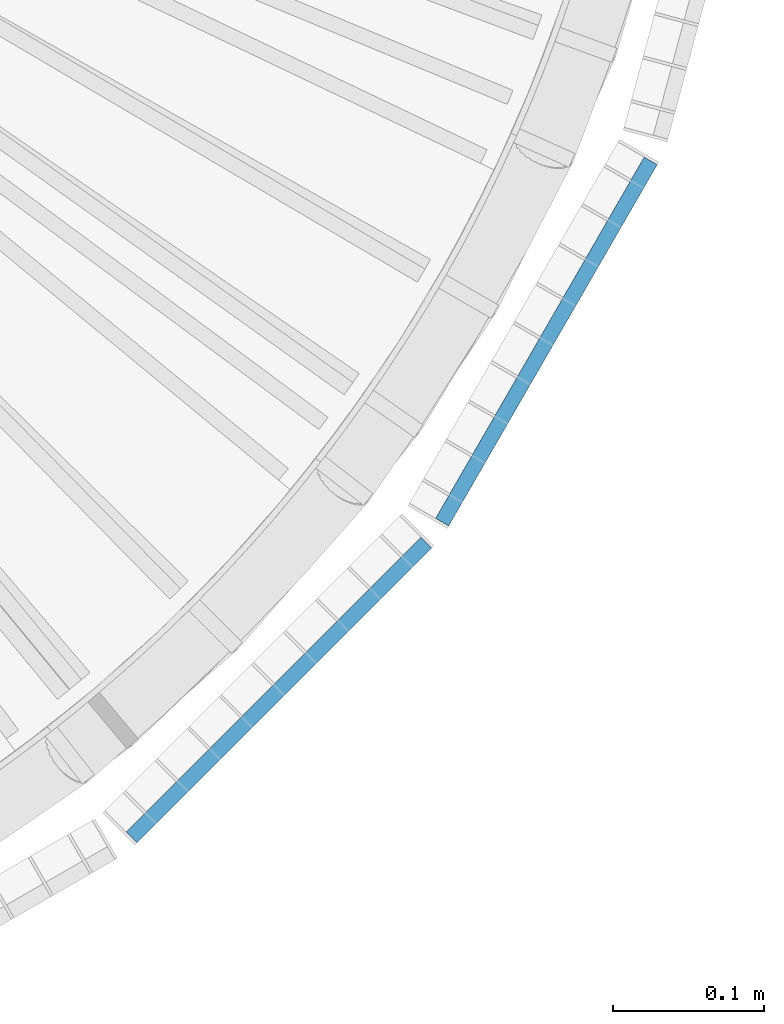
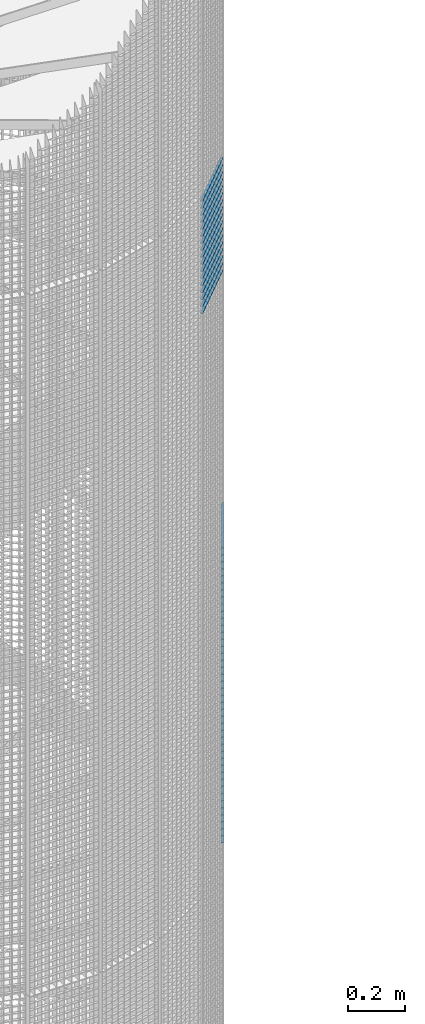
# One storey, part 249 of 1148: 60 beams, 2 elements without a shape of their own.
"""IFC2X3 building model written with IfcOpenShell, lengths in millimetres."""

from ifc_helpers import new_model, si_unit, frame, origin_with_axes, origin_2d_with_axis, place, context, subcontext, project, spatial, rectangle, extrude, material, type_object, element, aggregate, save


model = new_model("IFC2X3")

# Units and contexts
model_context = context("Model", 3, precision=1e-05, world=origin_with_axes())
body_context = subcontext(model_context, "Body", "Model", "MODEL_VIEW")
ifc_project = project(units=[si_unit("LENGTHUNIT", "METRE", prefix="MILLI"), si_unit("AREAUNIT", "SQUARE_METRE"), si_unit("VOLUMEUNIT", "CUBIC_METRE"), si_unit("MASSUNIT", "GRAM", prefix="KILO"), si_unit("TIMEUNIT", "SECOND"), si_unit("PLANEANGLEUNIT", "RADIAN"), si_unit("SOLIDANGLEUNIT", "STERADIAN"), si_unit("THERMODYNAMICTEMPERATUREUNIT", "DEGREE_CELSIUS"), si_unit("LUMINOUSINTENSITYUNIT", "LUMEN")], contexts=[model_context])

# Site, building, storey
site_placement = place(None, origin_with_axes())
site = spatial("IfcSite", under=ifc_project, at=site_placement, Name="Undefined", CompositionType="ELEMENT")
building_placement = place(site_placement, origin_with_axes())
building = spatial("IfcBuilding", under=site, at=building_placement, Name="Undefined", CompositionType="ELEMENT")
storey_placement = place(building_placement, origin_with_axes())
storey = spatial("IfcBuildingStorey", under=building, at=storey_placement, Name="Undefined", CompositionType="ELEMENT", Elevation=0.0)

# Assembly, beams
assembly_1_placement = place(storey_placement, origin_with_axes())
assembly_1 = element("IfcElementAssembly", 1, at=assembly_1_placement, inside=storey, Name="BORDURE", AssemblyPlace="NOTDEFINED", PredefinedType="NOTDEFINED")
ifc_material = material(Name="STEEL/S235JR")
beam_type = type_object("IfcBeamType", Name="PL2*10", PredefinedType="NOTDEFINED")
beam_1_placement = place(assembly_1_placement, frame((895.303964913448, -676.248044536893, 4290.0), z_axis=(0.866025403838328, -0.49999999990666, 0.0), x_axis=(0.49999999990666, 0.866025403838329, 0.0)))
beam_1 = element("IfcBeam", 2, at=beam_1_placement, type_object=beam_type, material=ifc_material, Name="ENTRETOISE", context=body_context, shape_type="SweptSolid", body=[
    extrude(rectangle(XDim=2.0, YDim=10.0, at=origin_2d_with_axis()), frame((275.999999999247, 9.09494701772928e-13, 1.53210777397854e-14), z_axis=(-1.0, 0.0, 0.0), x_axis=(0.0, -1.0, 0.0)), (0.0, 0.0, 1.0), 276.0),
])
beam_2_placement = place(assembly_1_placement, frame((895.303964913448, -676.248044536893, 4260.0), z_axis=(0.866025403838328, -0.49999999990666, 0.0), x_axis=(0.49999999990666, 0.866025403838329, 0.0)))
beam_2 = element("IfcBeam", 3, at=beam_2_placement, type_object=beam_type, material=ifc_material, Name="ENTRETOISE", context=body_context, shape_type="SweptSolid", body=[
    extrude(rectangle(XDim=2.0, YDim=10.0, at=origin_2d_with_axis()), frame((275.999999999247, 9.09494701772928e-13, 1.53210777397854e-14), z_axis=(-1.0, 0.0, 0.0), x_axis=(0.0, -1.0, 0.0)), (0.0, 0.0, 1.0), 276.0),
])
beam_3_placement = place(assembly_1_placement, frame((895.303964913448, -676.248044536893, 4230.0), z_axis=(0.866025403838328, -0.49999999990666, 0.0), x_axis=(0.49999999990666, 0.866025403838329, 0.0)))
beam_3 = element("IfcBeam", 4, at=beam_3_placement, type_object=beam_type, material=ifc_material, Name="ENTRETOISE", context=body_context, shape_type="SweptSolid", body=[
    extrude(rectangle(XDim=2.0, YDim=10.0, at=origin_2d_with_axis()), frame((275.999999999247, 9.09494701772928e-13, 1.53210777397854e-14), z_axis=(-1.0, 0.0, 0.0), x_axis=(0.0, -1.0, 0.0)), (0.0, 0.0, 1.0), 276.0),
])
beam_4_placement = place(assembly_1_placement, frame((895.303964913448, -676.248044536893, 4200.0), z_axis=(0.866025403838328, -0.49999999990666, 0.0), x_axis=(0.49999999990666, 0.866025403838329, 0.0)))
beam_4 = element("IfcBeam", 5, at=beam_4_placement, type_object=beam_type, material=ifc_material, Name="ENTRETOISE", context=body_context, shape_type="SweptSolid", body=[
    extrude(rectangle(XDim=2.0, YDim=10.0, at=origin_2d_with_axis()), frame((275.999999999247, 9.09494701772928e-13, 1.53210777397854e-14), z_axis=(-1.0, 0.0, 0.0), x_axis=(0.0, -1.0, 0.0)), (0.0, 0.0, 1.0), 276.0),
])
beam_5_placement = place(assembly_1_placement, frame((895.303964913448, -676.248044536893, 4170.0), z_axis=(0.866025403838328, -0.49999999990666, 0.0), x_axis=(0.49999999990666, 0.866025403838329, 0.0)))
beam_5 = element("IfcBeam", 6, at=beam_5_placement, type_object=beam_type, material=ifc_material, Name="ENTRETOISE", context=body_context, shape_type="SweptSolid", body=[
    extrude(rectangle(XDim=2.0, YDim=10.0, at=origin_2d_with_axis()), frame((275.999999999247, 9.09494701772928e-13, 1.53210777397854e-14), z_axis=(-1.0, 0.0, 0.0), x_axis=(0.0, -1.0, 0.0)), (0.0, 0.0, 1.0), 276.0),
])
beam_6_placement = place(assembly_1_placement, frame((895.303964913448, -676.248044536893, 4140.0), z_axis=(0.866025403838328, -0.49999999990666, 0.0), x_axis=(0.49999999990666, 0.866025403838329, 0.0)))
beam_6 = element("IfcBeam", 7, at=beam_6_placement, type_object=beam_type, material=ifc_material, Name="ENTRETOISE", context=body_context, shape_type="SweptSolid", body=[
    extrude(rectangle(XDim=2.0, YDim=10.0, at=origin_2d_with_axis()), frame((275.999999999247, 9.09494701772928e-13, 1.53210777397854e-14), z_axis=(-1.0, 0.0, 0.0), x_axis=(0.0, -1.0, 0.0)), (0.0, 0.0, 1.0), 276.0),
])
beam_7_placement = place(assembly_1_placement, frame((895.303964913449, -676.248044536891, 3720.0), z_axis=(0.866025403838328, -0.49999999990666, 0.0), x_axis=(0.49999999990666, 0.866025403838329, 0.0)))
beam_7 = element("IfcBeam", 8, at=beam_7_placement, type_object=beam_type, material=ifc_material, Name="ENTRETOISE", context=body_context, shape_type="SweptSolid", body=[
    extrude(rectangle(XDim=2.0, YDim=10.0, at=origin_2d_with_axis()), frame((275.999999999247, 9.09494701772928e-13, 1.53210777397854e-14), z_axis=(-1.0, 0.0, 0.0), x_axis=(0.0, -1.0, 0.0)), (0.0, 0.0, 1.0), 276.0),
])
beam_8_placement = place(assembly_1_placement, frame((895.303964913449, -676.248044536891, 3690.0), z_axis=(0.866025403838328, -0.49999999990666, 0.0), x_axis=(0.49999999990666, 0.866025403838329, 0.0)))
beam_8 = element("IfcBeam", 9, at=beam_8_placement, type_object=beam_type, material=ifc_material, Name="ENTRETOISE", context=body_context, shape_type="SweptSolid", body=[
    extrude(rectangle(XDim=2.0, YDim=10.0, at=origin_2d_with_axis()), frame((275.999999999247, 9.09494701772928e-13, 1.53210777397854e-14), z_axis=(-1.0, 0.0, 0.0), x_axis=(0.0, -1.0, 0.0)), (0.0, 0.0, 1.0), 276.0),
])
beam_9_placement = place(assembly_1_placement, frame((895.303964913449, -676.248044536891, 3750.0), z_axis=(0.866025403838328, -0.49999999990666, 0.0), x_axis=(0.49999999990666, 0.866025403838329, 0.0)))
beam_9 = element("IfcBeam", 10, at=beam_9_placement, type_object=beam_type, material=ifc_material, Name="ENTRETOISE", context=body_context, shape_type="SweptSolid", body=[
    extrude(rectangle(XDim=2.0, YDim=10.0, at=origin_2d_with_axis()), frame((275.999999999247, 9.09494701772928e-13, 1.53210777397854e-14), z_axis=(-1.0, 0.0, 0.0), x_axis=(0.0, -1.0, 0.0)), (0.0, 0.0, 1.0), 276.0),
])
beam_10_placement = place(assembly_1_placement, frame((895.303964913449, -676.248044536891, 3660.0), z_axis=(0.866025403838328, -0.49999999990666, 0.0), x_axis=(0.49999999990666, 0.866025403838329, 0.0)))
beam_10 = element("IfcBeam", 11, at=beam_10_placement, type_object=beam_type, material=ifc_material, Name="ENTRETOISE", context=body_context, shape_type="SweptSolid", body=[
    extrude(rectangle(XDim=2.0, YDim=10.0, at=origin_2d_with_axis()), frame((275.999999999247, 9.09494701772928e-13, 1.53210777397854e-14), z_axis=(-1.0, 0.0, 0.0), x_axis=(0.0, -1.0, 0.0)), (0.0, 0.0, 1.0), 276.0),
])
beam_11_placement = place(assembly_1_placement, frame((895.303964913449, -676.248044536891, 3630.0), z_axis=(0.866025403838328, -0.49999999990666, 0.0), x_axis=(0.49999999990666, 0.866025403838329, 0.0)))
beam_11 = element("IfcBeam", 12, at=beam_11_placement, type_object=beam_type, material=ifc_material, Name="ENTRETOISE", context=body_context, shape_type="SweptSolid", body=[
    extrude(rectangle(XDim=2.0, YDim=10.0, at=origin_2d_with_axis()), frame((275.999999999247, 9.09494701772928e-13, 1.53210777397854e-14), z_axis=(-1.0, 0.0, 0.0), x_axis=(0.0, -1.0, 0.0)), (0.0, 0.0, 1.0), 276.0),
])
beam_12_placement = place(assembly_1_placement, frame((895.303964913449, -676.248044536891, 3780.0), z_axis=(0.866025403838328, -0.49999999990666, 0.0), x_axis=(0.49999999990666, 0.866025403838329, 0.0)))
beam_12 = element("IfcBeam", 13, at=beam_12_placement, type_object=beam_type, material=ifc_material, Name="ENTRETOISE", context=body_context, shape_type="SweptSolid", body=[
    extrude(rectangle(XDim=2.0, YDim=10.0, at=origin_2d_with_axis()), frame((275.999999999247, 9.09494701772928e-13, 1.53210777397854e-14), z_axis=(-1.0, 0.0, 0.0), x_axis=(0.0, -1.0, 0.0)), (0.0, 0.0, 1.0), 276.0),
])
beam_13_placement = place(assembly_1_placement, frame((895.303964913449, -676.248044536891, 3600.0), z_axis=(0.866025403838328, -0.49999999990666, 0.0), x_axis=(0.49999999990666, 0.866025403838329, 0.0)))
beam_13 = element("IfcBeam", 14, at=beam_13_placement, type_object=beam_type, material=ifc_material, Name="ENTRETOISE", context=body_context, shape_type="SweptSolid", body=[
    extrude(rectangle(XDim=2.0, YDim=10.0, at=origin_2d_with_axis()), frame((275.999999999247, 9.09494701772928e-13, 1.53210777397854e-14), z_axis=(-1.0, 0.0, 0.0), x_axis=(0.0, -1.0, 0.0)), (0.0, 0.0, 1.0), 276.0),
])
beam_14_placement = place(assembly_1_placement, frame((895.303964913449, -676.248044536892, 3810.0), z_axis=(0.866025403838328, -0.49999999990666, 0.0), x_axis=(0.49999999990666, 0.866025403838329, 0.0)))
beam_14 = element("IfcBeam", 15, at=beam_14_placement, type_object=beam_type, material=ifc_material, Name="ENTRETOISE", context=body_context, shape_type="SweptSolid", body=[
    extrude(rectangle(XDim=2.0, YDim=10.0, at=origin_2d_with_axis()), frame((275.999999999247, 9.09494701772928e-13, 1.53210777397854e-14), z_axis=(-1.0, 0.0, 0.0), x_axis=(0.0, -1.0, 0.0)), (0.0, 0.0, 1.0), 276.0),
])
beam_15_placement = place(assembly_1_placement, frame((895.30396491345, -676.248044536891, 3570.0), z_axis=(0.866025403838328, -0.49999999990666, 0.0), x_axis=(0.49999999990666, 0.866025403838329, 0.0)))
beam_15 = element("IfcBeam", 16, at=beam_15_placement, type_object=beam_type, material=ifc_material, Name="ENTRETOISE", context=body_context, shape_type="SweptSolid", body=[
    extrude(rectangle(XDim=2.0, YDim=10.0, at=origin_2d_with_axis()), frame((275.999999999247, 9.09494701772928e-13, 1.53210777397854e-14), z_axis=(-1.0, 0.0, 0.0), x_axis=(0.0, -1.0, 0.0)), (0.0, 0.0, 1.0), 276.0),
])
beam_16_placement = place(assembly_1_placement, frame((895.30396491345, -676.248044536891, 3540.0), z_axis=(0.866025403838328, -0.49999999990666, 0.0), x_axis=(0.49999999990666, 0.866025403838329, 0.0)))
beam_16 = element("IfcBeam", 17, at=beam_16_placement, type_object=beam_type, material=ifc_material, Name="ENTRETOISE", context=body_context, shape_type="SweptSolid", body=[
    extrude(rectangle(XDim=2.0, YDim=10.0, at=origin_2d_with_axis()), frame((275.999999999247, 9.09494701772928e-13, 1.53210777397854e-14), z_axis=(-1.0, 0.0, 0.0), x_axis=(0.0, -1.0, 0.0)), (0.0, 0.0, 1.0), 276.0),
])
beam_17_placement = place(assembly_1_placement, frame((895.303964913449, -676.248044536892, 3840.0), z_axis=(0.866025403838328, -0.49999999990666, 0.0), x_axis=(0.49999999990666, 0.866025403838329, 0.0)))
beam_17 = element("IfcBeam", 18, at=beam_17_placement, type_object=beam_type, material=ifc_material, Name="ENTRETOISE", context=body_context, shape_type="SweptSolid", body=[
    extrude(rectangle(XDim=2.0, YDim=10.0, at=origin_2d_with_axis()), frame((275.999999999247, 9.09494701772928e-13, 1.53210777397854e-14), z_axis=(-1.0, 0.0, 0.0), x_axis=(0.0, -1.0, 0.0)), (0.0, 0.0, 1.0), 276.0),
])
beam_18_placement = place(assembly_1_placement, frame((895.303964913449, -676.248044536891, 3510.0), z_axis=(0.866025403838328, -0.49999999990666, 0.0), x_axis=(0.49999999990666, 0.866025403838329, 0.0)))
beam_18 = element("IfcBeam", 19, at=beam_18_placement, type_object=beam_type, material=ifc_material, Name="ENTRETOISE", context=body_context, shape_type="SweptSolid", body=[
    extrude(rectangle(XDim=2.0, YDim=10.0, at=origin_2d_with_axis()), frame((275.999999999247, 9.09494701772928e-13, 1.53210777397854e-14), z_axis=(-1.0, 0.0, 0.0), x_axis=(0.0, -1.0, 0.0)), (0.0, 0.0, 1.0), 276.0),
])
beam_19_placement = place(assembly_1_placement, frame((895.303964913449, -676.248044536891, 3480.0), z_axis=(0.866025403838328, -0.49999999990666, 0.0), x_axis=(0.49999999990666, 0.866025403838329, 0.0)))
beam_19 = element("IfcBeam", 20, at=beam_19_placement, type_object=beam_type, material=ifc_material, Name="ENTRETOISE", context=body_context, shape_type="SweptSolid", body=[
    extrude(rectangle(XDim=2.0, YDim=10.0, at=origin_2d_with_axis()), frame((275.999999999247, 9.09494701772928e-13, 1.53210777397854e-14), z_axis=(-1.0, 0.0, 0.0), x_axis=(0.0, -1.0, 0.0)), (0.0, 0.0, 1.0), 276.0),
])
beam_20_placement = place(assembly_1_placement, frame((895.303964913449, -676.248044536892, 3870.0), z_axis=(0.866025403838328, -0.49999999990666, 0.0), x_axis=(0.49999999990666, 0.866025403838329, 0.0)))
beam_20 = element("IfcBeam", 21, at=beam_20_placement, type_object=beam_type, material=ifc_material, Name="ENTRETOISE", context=body_context, shape_type="SweptSolid", body=[
    extrude(rectangle(XDim=2.0, YDim=10.0, at=origin_2d_with_axis()), frame((275.999999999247, 9.09494701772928e-13, 1.53210777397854e-14), z_axis=(-1.0, 0.0, 0.0), x_axis=(0.0, -1.0, 0.0)), (0.0, 0.0, 1.0), 276.0),
])
beam_21_placement = place(assembly_1_placement, frame((895.30396491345, -676.248044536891, 3450.0), z_axis=(0.866025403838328, -0.49999999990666, 0.0), x_axis=(0.49999999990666, 0.866025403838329, 0.0)))
beam_21 = element("IfcBeam", 22, at=beam_21_placement, type_object=beam_type, material=ifc_material, Name="ENTRETOISE", context=body_context, shape_type="SweptSolid", body=[
    extrude(rectangle(XDim=2.0, YDim=10.0, at=origin_2d_with_axis()), frame((275.999999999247, 9.09494701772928e-13, 1.53210777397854e-14), z_axis=(-1.0, 0.0, 0.0), x_axis=(0.0, -1.0, 0.0)), (0.0, 0.0, 1.0), 276.0),
])
beam_22_placement = place(assembly_1_placement, frame((895.30396491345, -676.24804453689, 3420.0), z_axis=(0.866025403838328, -0.49999999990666, 0.0), x_axis=(0.49999999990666, 0.866025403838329, 0.0)))
beam_22 = element("IfcBeam", 23, at=beam_22_placement, type_object=beam_type, material=ifc_material, Name="ENTRETOISE", context=body_context, shape_type="SweptSolid", body=[
    extrude(rectangle(XDim=2.0, YDim=10.0, at=origin_2d_with_axis()), frame((275.999999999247, 9.09494701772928e-13, 1.53210777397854e-14), z_axis=(-1.0, 0.0, 0.0), x_axis=(0.0, -1.0, 0.0)), (0.0, 0.0, 1.0), 276.0),
])
beam_23_placement = place(assembly_1_placement, frame((895.303964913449, -676.248044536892, 3900.0), z_axis=(0.866025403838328, -0.49999999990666, 0.0), x_axis=(0.49999999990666, 0.866025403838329, 0.0)))
beam_23 = element("IfcBeam", 24, at=beam_23_placement, type_object=beam_type, material=ifc_material, Name="ENTRETOISE", context=body_context, shape_type="SweptSolid", body=[
    extrude(rectangle(XDim=2.0, YDim=10.0, at=origin_2d_with_axis()), frame((275.999999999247, 9.09494701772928e-13, 1.53210777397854e-14), z_axis=(-1.0, 0.0, 0.0), x_axis=(0.0, -1.0, 0.0)), (0.0, 0.0, 1.0), 276.0),
])
beam_24_placement = place(assembly_1_placement, frame((895.30396491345, -676.24804453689, 3390.0), z_axis=(0.866025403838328, -0.49999999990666, 0.0), x_axis=(0.49999999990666, 0.866025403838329, 0.0)))
beam_24 = element("IfcBeam", 25, at=beam_24_placement, type_object=beam_type, material=ifc_material, Name="ENTRETOISE", context=body_context, shape_type="SweptSolid", body=[
    extrude(rectangle(XDim=2.0, YDim=10.0, at=origin_2d_with_axis()), frame((275.999999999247, 9.09494701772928e-13, 1.53210777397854e-14), z_axis=(-1.0, 0.0, 0.0), x_axis=(0.0, -1.0, 0.0)), (0.0, 0.0, 1.0), 276.0),
])
beam_25_placement = place(assembly_1_placement, frame((895.303964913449, -676.248044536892, 3930.0), z_axis=(0.866025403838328, -0.49999999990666, 0.0), x_axis=(0.49999999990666, 0.866025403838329, 0.0)))
beam_25 = element("IfcBeam", 26, at=beam_25_placement, type_object=beam_type, material=ifc_material, Name="ENTRETOISE", context=body_context, shape_type="SweptSolid", body=[
    extrude(rectangle(XDim=2.0, YDim=10.0, at=origin_2d_with_axis()), frame((275.999999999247, 9.09494701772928e-13, 1.53210777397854e-14), z_axis=(-1.0, 0.0, 0.0), x_axis=(0.0, -1.0, 0.0)), (0.0, 0.0, 1.0), 276.0),
])
beam_26_placement = place(assembly_1_placement, frame((895.30396491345, -676.24804453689, 3360.0), z_axis=(0.866025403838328, -0.49999999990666, 0.0), x_axis=(0.49999999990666, 0.866025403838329, 0.0)))
beam_26 = element("IfcBeam", 27, at=beam_26_placement, type_object=beam_type, material=ifc_material, Name="ENTRETOISE", context=body_context, shape_type="SweptSolid", body=[
    extrude(rectangle(XDim=2.0, YDim=10.0, at=origin_2d_with_axis()), frame((275.999999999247, 9.09494701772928e-13, 1.53210777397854e-14), z_axis=(-1.0, 0.0, 0.0), x_axis=(0.0, -1.0, 0.0)), (0.0, 0.0, 1.0), 276.0),
])
beam_27_placement = place(assembly_1_placement, frame((895.30396491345, -676.24804453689, 3330.0), z_axis=(0.866025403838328, -0.49999999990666, 0.0), x_axis=(0.49999999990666, 0.866025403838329, 0.0)))
beam_27 = element("IfcBeam", 28, at=beam_27_placement, type_object=beam_type, material=ifc_material, Name="ENTRETOISE", context=body_context, shape_type="SweptSolid", body=[
    extrude(rectangle(XDim=2.0, YDim=10.0, at=origin_2d_with_axis()), frame((275.999999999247, 9.09494701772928e-13, 1.53210777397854e-14), z_axis=(-1.0, 0.0, 0.0), x_axis=(0.0, -1.0, 0.0)), (0.0, 0.0, 1.0), 276.0),
])
beam_28_placement = place(assembly_1_placement, frame((895.303964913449, -676.248044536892, 3960.0), z_axis=(0.866025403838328, -0.49999999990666, 0.0), x_axis=(0.49999999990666, 0.866025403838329, 0.0)))
beam_28 = element("IfcBeam", 29, at=beam_28_placement, type_object=beam_type, material=ifc_material, Name="ENTRETOISE", context=body_context, shape_type="SweptSolid", body=[
    extrude(rectangle(XDim=2.0, YDim=10.0, at=origin_2d_with_axis()), frame((275.999999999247, 9.09494701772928e-13, 1.53210777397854e-14), z_axis=(-1.0, 0.0, 0.0), x_axis=(0.0, -1.0, 0.0)), (0.0, 0.0, 1.0), 276.0),
])
beam_29_placement = place(assembly_1_placement, frame((895.30396491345, -676.24804453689, 3300.0), z_axis=(0.866025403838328, -0.49999999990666, 0.0), x_axis=(0.49999999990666, 0.866025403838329, 0.0)))
beam_29 = element("IfcBeam", 30, at=beam_29_placement, type_object=beam_type, material=ifc_material, Name="ENTRETOISE", context=body_context, shape_type="SweptSolid", body=[
    extrude(rectangle(XDim=2.0, YDim=10.0, at=origin_2d_with_axis()), frame((275.999999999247, 9.09494701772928e-13, 1.53210777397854e-14), z_axis=(-1.0, 0.0, 0.0), x_axis=(0.0, -1.0, 0.0)), (0.0, 0.0, 1.0), 276.0),
])
beam_30_placement = place(assembly_1_placement, frame((895.30396491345, -676.24804453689, 3270.0), z_axis=(0.866025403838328, -0.49999999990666, 0.0), x_axis=(0.49999999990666, 0.866025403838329, 0.0)))
beam_30 = element("IfcBeam", 31, at=beam_30_placement, type_object=beam_type, material=ifc_material, Name="ENTRETOISE", context=body_context, shape_type="SweptSolid", body=[
    extrude(rectangle(XDim=2.0, YDim=10.0, at=origin_2d_with_axis()), frame((275.999999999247, 9.09494701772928e-13, 1.53210777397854e-14), z_axis=(-1.0, 0.0, 0.0), x_axis=(0.0, -1.0, 0.0)), (0.0, 0.0, 1.0), 276.0),
])
beam_31_placement = place(assembly_1_placement, frame((895.303964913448, -676.248044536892, 3990.0), z_axis=(0.866025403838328, -0.49999999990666, 0.0), x_axis=(0.49999999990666, 0.866025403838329, 0.0)))
beam_31 = element("IfcBeam", 32, at=beam_31_placement, type_object=beam_type, material=ifc_material, Name="ENTRETOISE", context=body_context, shape_type="SweptSolid", body=[
    extrude(rectangle(XDim=2.0, YDim=10.0, at=origin_2d_with_axis()), frame((275.999999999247, 9.09494701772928e-13, 1.53210777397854e-14), z_axis=(-1.0, 0.0, 0.0), x_axis=(0.0, -1.0, 0.0)), (0.0, 0.0, 1.0), 276.0),
])
beam_32_placement = place(assembly_1_placement, frame((895.30396491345, -676.24804453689, 3240.0), z_axis=(0.866025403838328, -0.49999999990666, 0.0), x_axis=(0.49999999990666, 0.866025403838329, 0.0)))
beam_32 = element("IfcBeam", 33, at=beam_32_placement, type_object=beam_type, material=ifc_material, Name="ENTRETOISE", context=body_context, shape_type="SweptSolid", body=[
    extrude(rectangle(XDim=2.0, YDim=10.0, at=origin_2d_with_axis()), frame((275.999999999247, 9.09494701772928e-13, 1.53210777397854e-14), z_axis=(-1.0, 0.0, 0.0), x_axis=(0.0, -1.0, 0.0)), (0.0, 0.0, 1.0), 276.0),
])
beam_33_placement = place(assembly_1_placement, frame((895.303964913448, -676.248044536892, 4020.0), z_axis=(0.866025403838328, -0.49999999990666, 0.0), x_axis=(0.49999999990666, 0.866025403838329, 0.0)))
beam_33 = element("IfcBeam", 34, at=beam_33_placement, type_object=beam_type, material=ifc_material, Name="ENTRETOISE", context=body_context, shape_type="SweptSolid", body=[
    extrude(rectangle(XDim=2.0, YDim=10.0, at=origin_2d_with_axis()), frame((275.999999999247, 9.09494701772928e-13, 1.53210777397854e-14), z_axis=(-1.0, 0.0, 0.0), x_axis=(0.0, -1.0, 0.0)), (0.0, 0.0, 1.0), 276.0),
])
beam_34_placement = place(assembly_1_placement, frame((895.30396491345, -676.24804453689, 3210.0), z_axis=(0.866025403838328, -0.49999999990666, 0.0), x_axis=(0.49999999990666, 0.866025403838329, 0.0)))
beam_34 = element("IfcBeam", 35, at=beam_34_placement, type_object=beam_type, material=ifc_material, Name="ENTRETOISE", context=body_context, shape_type="SweptSolid", body=[
    extrude(rectangle(XDim=2.0, YDim=10.0, at=origin_2d_with_axis()), frame((275.999999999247, 9.09494701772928e-13, 1.53210777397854e-14), z_axis=(-1.0, 0.0, 0.0), x_axis=(0.0, -1.0, 0.0)), (0.0, 0.0, 1.0), 276.0),
])
beam_35_placement = place(assembly_1_placement, frame((895.30396491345, -676.24804453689, 3180.0), z_axis=(0.866025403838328, -0.49999999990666, 0.0), x_axis=(0.49999999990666, 0.866025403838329, 0.0)))
beam_35 = element("IfcBeam", 36, at=beam_35_placement, type_object=beam_type, material=ifc_material, Name="ENTRETOISE", context=body_context, shape_type="SweptSolid", body=[
    extrude(rectangle(XDim=2.0, YDim=10.0, at=origin_2d_with_axis()), frame((275.999999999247, 9.09494701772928e-13, 1.53210777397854e-14), z_axis=(-1.0, 0.0, 0.0), x_axis=(0.0, -1.0, 0.0)), (0.0, 0.0, 1.0), 276.0),
])
beam_36_placement = place(assembly_1_placement, frame((895.303964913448, -676.248044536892, 4050.0), z_axis=(0.866025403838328, -0.49999999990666, 0.0), x_axis=(0.49999999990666, 0.866025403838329, 0.0)))
beam_36 = element("IfcBeam", 37, at=beam_36_placement, type_object=beam_type, material=ifc_material, Name="ENTRETOISE", context=body_context, shape_type="SweptSolid", body=[
    extrude(rectangle(XDim=2.0, YDim=10.0, at=origin_2d_with_axis()), frame((275.999999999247, 9.09494701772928e-13, 1.53210777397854e-14), z_axis=(-1.0, 0.0, 0.0), x_axis=(0.0, -1.0, 0.0)), (0.0, 0.0, 1.0), 276.0),
])
beam_37_placement = place(assembly_1_placement, frame((895.30396491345, -676.24804453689, 3150.0), z_axis=(0.866025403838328, -0.49999999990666, 0.0), x_axis=(0.49999999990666, 0.866025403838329, 0.0)))
beam_37 = element("IfcBeam", 38, at=beam_37_placement, type_object=beam_type, material=ifc_material, Name="ENTRETOISE", context=body_context, shape_type="SweptSolid", body=[
    extrude(rectangle(XDim=2.0, YDim=10.0, at=origin_2d_with_axis()), frame((275.999999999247, 9.09494701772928e-13, 1.53210777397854e-14), z_axis=(-1.0, 0.0, 0.0), x_axis=(0.0, -1.0, 0.0)), (0.0, 0.0, 1.0), 276.0),
])
beam_38_placement = place(assembly_1_placement, frame((895.30396491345, -676.24804453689, 3120.0), z_axis=(0.866025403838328, -0.49999999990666, 0.0), x_axis=(0.49999999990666, 0.866025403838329, 0.0)))
beam_38 = element("IfcBeam", 39, at=beam_38_placement, type_object=beam_type, material=ifc_material, Name="ENTRETOISE", context=body_context, shape_type="SweptSolid", body=[
    extrude(rectangle(XDim=2.0, YDim=10.0, at=origin_2d_with_axis()), frame((275.999999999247, 9.09494701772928e-13, 1.53210777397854e-14), z_axis=(-1.0, 0.0, 0.0), x_axis=(0.0, -1.0, 0.0)), (0.0, 0.0, 1.0), 276.0),
])
beam_39_placement = place(assembly_1_placement, frame((895.303964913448, -676.248044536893, 4080.0), z_axis=(0.866025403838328, -0.49999999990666, 0.0), x_axis=(0.49999999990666, 0.866025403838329, 0.0)))
beam_39 = element("IfcBeam", 40, at=beam_39_placement, type_object=beam_type, material=ifc_material, Name="ENTRETOISE", context=body_context, shape_type="SweptSolid", body=[
    extrude(rectangle(XDim=2.0, YDim=10.0, at=origin_2d_with_axis()), frame((275.999999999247, 9.09494701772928e-13, 1.53210777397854e-14), z_axis=(-1.0, 0.0, 0.0), x_axis=(0.0, -1.0, 0.0)), (0.0, 0.0, 1.0), 276.0),
])
beam_40_placement = place(assembly_1_placement, frame((895.30396491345, -676.248044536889, 3090.0), z_axis=(0.866025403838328, -0.49999999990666, 0.0), x_axis=(0.49999999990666, 0.866025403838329, 0.0)))
beam_40 = element("IfcBeam", 41, at=beam_40_placement, type_object=beam_type, material=ifc_material, Name="ENTRETOISE", context=body_context, shape_type="SweptSolid", body=[
    extrude(rectangle(XDim=2.0, YDim=10.0, at=origin_2d_with_axis()), frame((275.999999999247, 9.09494701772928e-13, 1.53210777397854e-14), z_axis=(-1.0, 0.0, 0.0), x_axis=(0.0, -1.0, 0.0)), (0.0, 0.0, 1.0), 276.0),
])
beam_41_placement = place(assembly_1_placement, frame((895.30396491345, -676.248044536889, 3060.0), z_axis=(0.866025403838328, -0.49999999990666, 0.0), x_axis=(0.49999999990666, 0.866025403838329, 0.0)))
beam_41 = element("IfcBeam", 42, at=beam_41_placement, type_object=beam_type, material=ifc_material, Name="ENTRETOISE", context=body_context, shape_type="SweptSolid", body=[
    extrude(rectangle(XDim=2.0, YDim=10.0, at=origin_2d_with_axis()), frame((275.999999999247, 9.09494701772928e-13, 1.53210777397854e-14), z_axis=(-1.0, 0.0, 0.0), x_axis=(0.0, -1.0, 0.0)), (0.0, 0.0, 1.0), 276.0),
])
beam_42_placement = place(assembly_1_placement, frame((895.303964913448, -676.248044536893, 4110.0), z_axis=(0.866025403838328, -0.49999999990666, 0.0), x_axis=(0.49999999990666, 0.866025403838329, 0.0)))
beam_42 = element("IfcBeam", 43, at=beam_42_placement, type_object=beam_type, material=ifc_material, Name="ENTRETOISE", context=body_context, shape_type="SweptSolid", body=[
    extrude(rectangle(XDim=2.0, YDim=10.0, at=origin_2d_with_axis()), frame((275.999999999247, 9.09494701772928e-13, 1.53210777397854e-14), z_axis=(-1.0, 0.0, 0.0), x_axis=(0.0, -1.0, 0.0)), (0.0, 0.0, 1.0), 276.0),
])
beam_43_placement = place(assembly_1_placement, frame((895.30396491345, -676.248044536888, 3030.0), z_axis=(0.866025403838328, -0.49999999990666, 0.0), x_axis=(0.49999999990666, 0.866025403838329, 0.0)))
beam_43 = element("IfcBeam", 44, at=beam_43_placement, type_object=beam_type, material=ifc_material, Name="ENTRETOISE", context=body_context, shape_type="SweptSolid", body=[
    extrude(rectangle(XDim=2.0, YDim=10.0, at=origin_2d_with_axis()), frame((275.999999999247, 9.09494701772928e-13, 1.53210777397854e-14), z_axis=(-1.0, 0.0, 0.0), x_axis=(0.0, -1.0, 0.0)), (0.0, 0.0, 1.0), 276.0),
])
aggregate(assembly_1, [beam_1, beam_2, beam_3, beam_4, beam_5, beam_6, beam_7, beam_8, beam_9, beam_10, beam_11, beam_12, beam_13, beam_14, beam_15, beam_16, beam_17, beam_18, beam_19, beam_20, beam_21, beam_22, beam_23, beam_24, beam_25, beam_26, beam_27, beam_28, beam_29, beam_30, beam_31, beam_32, beam_33, beam_34, beam_35, beam_36, beam_37, beam_38, beam_39, beam_40, beam_41, beam_42, beam_43])

assembly_2_placement = place(storey_placement, origin_with_axes())
assembly_2 = element("IfcElementAssembly", 45, at=assembly_2_placement, inside=storey, Name="BORDURE", AssemblyPlace="NOTDEFINED", PredefinedType="NOTDEFINED")
beam_44_placement = place(assembly_2_placement, frame((689.771348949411, -884.927168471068, 5970.0), z_axis=(0.707106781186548, -0.707106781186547, 0.0), x_axis=(0.707106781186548, 0.707106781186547, 0.0)))
beam_44 = element("IfcBeam", 46, at=beam_44_placement, type_object=beam_type, material=ifc_material, Name="ENTRETOISE", context=body_context, shape_type="SweptSolid", body=[
    extrude(rectangle(XDim=2.0, YDim=10.0, at=origin_2d_with_axis()), frame((275.999999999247, 9.09494701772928e-13, 1.53210777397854e-14), z_axis=(-1.0, 0.0, 0.0), x_axis=(0.0, -1.0, 0.0)), (0.0, 0.0, 1.0), 276.0),
])
beam_45_placement = place(assembly_2_placement, frame((689.771348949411, -884.927168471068, 5940.0), z_axis=(0.707106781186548, -0.707106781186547, 0.0), x_axis=(0.707106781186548, 0.707106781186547, 0.0)))
beam_45 = element("IfcBeam", 47, at=beam_45_placement, type_object=beam_type, material=ifc_material, Name="ENTRETOISE", context=body_context, shape_type="SweptSolid", body=[
    extrude(rectangle(XDim=2.0, YDim=10.0, at=origin_2d_with_axis()), frame((275.999999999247, 9.09494701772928e-13, 1.53210777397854e-14), z_axis=(-1.0, 0.0, 0.0), x_axis=(0.0, -1.0, 0.0)), (0.0, 0.0, 1.0), 276.0),
])
beam_46_placement = place(assembly_2_placement, frame((689.771348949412, -884.927168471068, 5910.0), z_axis=(0.707106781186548, -0.707106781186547, 0.0), x_axis=(0.707106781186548, 0.707106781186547, 0.0)))
beam_46 = element("IfcBeam", 48, at=beam_46_placement, type_object=beam_type, material=ifc_material, Name="ENTRETOISE", context=body_context, shape_type="SweptSolid", body=[
    extrude(rectangle(XDim=2.0, YDim=10.0, at=origin_2d_with_axis()), frame((275.999999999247, 9.09494701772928e-13, 1.53210777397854e-14), z_axis=(-1.0, 0.0, 0.0), x_axis=(0.0, -1.0, 0.0)), (0.0, 0.0, 1.0), 276.0),
])
beam_47_placement = place(assembly_2_placement, frame((689.771348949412, -884.927168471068, 5880.0), z_axis=(0.707106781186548, -0.707106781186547, 0.0), x_axis=(0.707106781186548, 0.707106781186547, 0.0)))
beam_47 = element("IfcBeam", 49, at=beam_47_placement, type_object=beam_type, material=ifc_material, Name="ENTRETOISE", context=body_context, shape_type="SweptSolid", body=[
    extrude(rectangle(XDim=2.0, YDim=10.0, at=origin_2d_with_axis()), frame((275.999999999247, 9.09494701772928e-13, 1.53210777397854e-14), z_axis=(-1.0, 0.0, 0.0), x_axis=(0.0, -1.0, 0.0)), (0.0, 0.0, 1.0), 276.0),
])
beam_48_placement = place(assembly_2_placement, frame((689.771348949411, -884.927168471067, 5850.0), z_axis=(0.707106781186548, -0.707106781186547, 0.0), x_axis=(0.707106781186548, 0.707106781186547, 0.0)))
beam_48 = element("IfcBeam", 50, at=beam_48_placement, type_object=beam_type, material=ifc_material, Name="ENTRETOISE", context=body_context, shape_type="SweptSolid", body=[
    extrude(rectangle(XDim=2.0, YDim=10.0, at=origin_2d_with_axis()), frame((275.999999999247, 9.09494701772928e-13, 1.53210777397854e-14), z_axis=(-1.0, 0.0, 0.0), x_axis=(0.0, -1.0, 0.0)), (0.0, 0.0, 1.0), 276.0),
])
beam_49_placement = place(assembly_2_placement, frame((689.771348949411, -884.927168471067, 5820.0), z_axis=(0.707106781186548, -0.707106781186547, 0.0), x_axis=(0.707106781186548, 0.707106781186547, 0.0)))
beam_49 = element("IfcBeam", 51, at=beam_49_placement, type_object=beam_type, material=ifc_material, Name="ENTRETOISE", context=body_context, shape_type="SweptSolid", body=[
    extrude(rectangle(XDim=2.0, YDim=10.0, at=origin_2d_with_axis()), frame((275.999999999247, 9.09494701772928e-13, 1.53210777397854e-14), z_axis=(-1.0, 0.0, 0.0), x_axis=(0.0, -1.0, 0.0)), (0.0, 0.0, 1.0), 276.0),
])
beam_50_placement = place(assembly_2_placement, frame((689.771348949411, -884.927168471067, 5790.0), z_axis=(0.707106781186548, -0.707106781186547, 0.0), x_axis=(0.707106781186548, 0.707106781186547, 0.0)))
beam_50 = element("IfcBeam", 52, at=beam_50_placement, type_object=beam_type, material=ifc_material, Name="ENTRETOISE", context=body_context, shape_type="SweptSolid", body=[
    extrude(rectangle(XDim=2.0, YDim=10.0, at=origin_2d_with_axis()), frame((275.999999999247, 9.09494701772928e-13, 1.53210777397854e-14), z_axis=(-1.0, 0.0, 0.0), x_axis=(0.0, -1.0, 0.0)), (0.0, 0.0, 1.0), 276.0),
])
beam_51_placement = place(assembly_2_placement, frame((689.771348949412, -884.927168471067, 5760.0), z_axis=(0.707106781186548, -0.707106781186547, 0.0), x_axis=(0.707106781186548, 0.707106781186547, 0.0)))
beam_51 = element("IfcBeam", 53, at=beam_51_placement, type_object=beam_type, material=ifc_material, Name="ENTRETOISE", context=body_context, shape_type="SweptSolid", body=[
    extrude(rectangle(XDim=2.0, YDim=10.0, at=origin_2d_with_axis()), frame((275.999999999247, 9.09494701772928e-13, 1.53210777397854e-14), z_axis=(-1.0, 0.0, 0.0), x_axis=(0.0, -1.0, 0.0)), (0.0, 0.0, 1.0), 276.0),
])
beam_52_placement = place(assembly_2_placement, frame((689.771348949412, -884.927168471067, 5730.0), z_axis=(0.707106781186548, -0.707106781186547, 0.0), x_axis=(0.707106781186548, 0.707106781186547, 0.0)))
beam_52 = element("IfcBeam", 54, at=beam_52_placement, type_object=beam_type, material=ifc_material, Name="ENTRETOISE", context=body_context, shape_type="SweptSolid", body=[
    extrude(rectangle(XDim=2.0, YDim=10.0, at=origin_2d_with_axis()), frame((275.999999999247, 9.09494701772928e-13, 1.53210777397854e-14), z_axis=(-1.0, 0.0, 0.0), x_axis=(0.0, -1.0, 0.0)), (0.0, 0.0, 1.0), 276.0),
])
beam_53_placement = place(assembly_2_placement, frame((689.771348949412, -884.927168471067, 5700.0), z_axis=(0.707106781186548, -0.707106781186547, 0.0), x_axis=(0.707106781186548, 0.707106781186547, 0.0)))
beam_53 = element("IfcBeam", 55, at=beam_53_placement, type_object=beam_type, material=ifc_material, Name="ENTRETOISE", context=body_context, shape_type="SweptSolid", body=[
    extrude(rectangle(XDim=2.0, YDim=10.0, at=origin_2d_with_axis()), frame((275.999999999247, 9.09494701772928e-13, 1.53210777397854e-14), z_axis=(-1.0, 0.0, 0.0), x_axis=(0.0, -1.0, 0.0)), (0.0, 0.0, 1.0), 276.0),
])
beam_54_placement = place(assembly_2_placement, frame((689.771348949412, -884.927168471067, 5670.0), z_axis=(0.707106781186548, -0.707106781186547, 0.0), x_axis=(0.707106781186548, 0.707106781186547, 0.0)))
beam_54 = element("IfcBeam", 56, at=beam_54_placement, type_object=beam_type, material=ifc_material, Name="ENTRETOISE", context=body_context, shape_type="SweptSolid", body=[
    extrude(rectangle(XDim=2.0, YDim=10.0, at=origin_2d_with_axis()), frame((275.999999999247, 9.09494701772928e-13, 1.53210777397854e-14), z_axis=(-1.0, 0.0, 0.0), x_axis=(0.0, -1.0, 0.0)), (0.0, 0.0, 1.0), 276.0),
])
beam_55_placement = place(assembly_2_placement, frame((689.771348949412, -884.927168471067, 5640.0), z_axis=(0.707106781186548, -0.707106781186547, 0.0), x_axis=(0.707106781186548, 0.707106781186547, 0.0)))
beam_55 = element("IfcBeam", 57, at=beam_55_placement, type_object=beam_type, material=ifc_material, Name="ENTRETOISE", context=body_context, shape_type="SweptSolid", body=[
    extrude(rectangle(XDim=2.0, YDim=10.0, at=origin_2d_with_axis()), frame((275.999999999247, 9.09494701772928e-13, 1.53210777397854e-14), z_axis=(-1.0, 0.0, 0.0), x_axis=(0.0, -1.0, 0.0)), (0.0, 0.0, 1.0), 276.0),
])
beam_56_placement = place(assembly_2_placement, frame((689.771348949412, -884.927168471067, 5610.0), z_axis=(0.707106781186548, -0.707106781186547, 0.0), x_axis=(0.707106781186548, 0.707106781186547, 0.0)))
beam_56 = element("IfcBeam", 58, at=beam_56_placement, type_object=beam_type, material=ifc_material, Name="ENTRETOISE", context=body_context, shape_type="SweptSolid", body=[
    extrude(rectangle(XDim=2.0, YDim=10.0, at=origin_2d_with_axis()), frame((275.999999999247, 9.09494701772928e-13, 1.53210777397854e-14), z_axis=(-1.0, 0.0, 0.0), x_axis=(0.0, -1.0, 0.0)), (0.0, 0.0, 1.0), 276.0),
])
beam_57_placement = place(assembly_2_placement, frame((689.771348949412, -884.927168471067, 5580.0), z_axis=(0.707106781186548, -0.707106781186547, 0.0), x_axis=(0.707106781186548, 0.707106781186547, 0.0)))
beam_57 = element("IfcBeam", 59, at=beam_57_placement, type_object=beam_type, material=ifc_material, Name="ENTRETOISE", context=body_context, shape_type="SweptSolid", body=[
    extrude(rectangle(XDim=2.0, YDim=10.0, at=origin_2d_with_axis()), frame((275.999999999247, 9.09494701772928e-13, 1.53210777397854e-14), z_axis=(-1.0, 0.0, 0.0), x_axis=(0.0, -1.0, 0.0)), (0.0, 0.0, 1.0), 276.0),
])
beam_58_placement = place(assembly_2_placement, frame((689.771348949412, -884.927168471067, 5550.0), z_axis=(0.707106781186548, -0.707106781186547, 0.0), x_axis=(0.707106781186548, 0.707106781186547, 0.0)))
beam_58 = element("IfcBeam", 60, at=beam_58_placement, type_object=beam_type, material=ifc_material, Name="ENTRETOISE", context=body_context, shape_type="SweptSolid", body=[
    extrude(rectangle(XDim=2.0, YDim=10.0, at=origin_2d_with_axis()), frame((275.999999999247, 9.09494701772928e-13, 1.53210777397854e-14), z_axis=(-1.0, 0.0, 0.0), x_axis=(0.0, -1.0, 0.0)), (0.0, 0.0, 1.0), 276.0),
])
beam_59_placement = place(assembly_2_placement, frame((689.771348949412, -884.927168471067, 5520.0), z_axis=(0.707106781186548, -0.707106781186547, 0.0), x_axis=(0.707106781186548, 0.707106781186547, 0.0)))
beam_59 = element("IfcBeam", 61, at=beam_59_placement, type_object=beam_type, material=ifc_material, Name="ENTRETOISE", context=body_context, shape_type="SweptSolid", body=[
    extrude(rectangle(XDim=2.0, YDim=10.0, at=origin_2d_with_axis()), frame((275.999999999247, 9.09494701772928e-13, 1.53210777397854e-14), z_axis=(-1.0, 0.0, 0.0), x_axis=(0.0, -1.0, 0.0)), (0.0, 0.0, 1.0), 276.0),
])
beam_60_placement = place(assembly_2_placement, frame((689.771348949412, -884.927168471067, 5490.0), z_axis=(0.707106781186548, -0.707106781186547, 0.0), x_axis=(0.707106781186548, 0.707106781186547, 0.0)))
beam_60 = element("IfcBeam", 62, at=beam_60_placement, type_object=beam_type, material=ifc_material, Name="ENTRETOISE", context=body_context, shape_type="SweptSolid", body=[
    extrude(rectangle(XDim=2.0, YDim=10.0, at=origin_2d_with_axis()), frame((275.999999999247, 9.09494701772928e-13, 1.53210777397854e-14), z_axis=(-1.0, 0.0, 0.0), x_axis=(0.0, -1.0, 0.0)), (0.0, 0.0, 1.0), 276.0),
])
aggregate(assembly_2, [beam_44, beam_45, beam_46, beam_47, beam_48, beam_49, beam_50, beam_51, beam_52, beam_53, beam_54, beam_55, beam_56, beam_57, beam_58, beam_59, beam_60])

save(model, "model.ifc")
